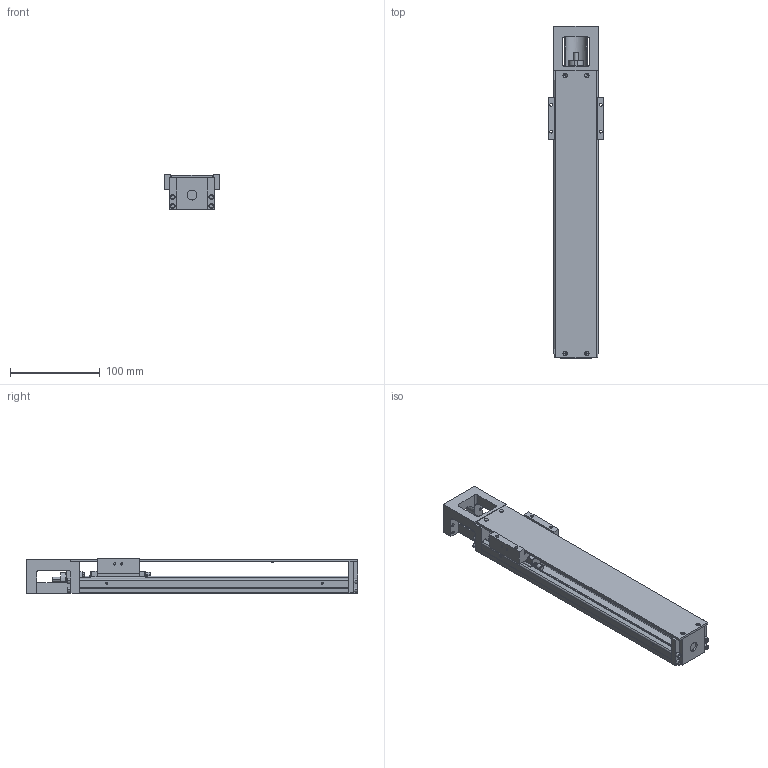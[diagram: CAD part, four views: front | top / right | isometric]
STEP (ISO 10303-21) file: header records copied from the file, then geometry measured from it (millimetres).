
FILE_DESCRIPTION(('no description'),'unknown implementation level');
FILE_NAME('KK5002P300A1F0C00_FILE_15.stp',' ',('HIWIN GmbH'),('CADClick - KiM GmbH - www.kimweb.de'),'unknown preprocess','ACIS','unknown authorization');
FILE_SCHEMA(('automotive_design'));
Length unit declared in the file: millimetre
Products named in the file (2): KK50_FILE; KK5002P300A1F0C00_FILE
Bounding box: 62 x 370 x 40 mm (x, y, z)
Volume: 331891.1 mm3; surface area: 128610.2 mm2
Topology: 2 solids, 14 shells, 840 faces, 2132 edges, 1349 vertices
Faces by surface type: plane 485, cylinder 247, cone 66, torus 42
Entity records: 49666 total; most frequent: CARTESIAN_POINT 4959, DIRECTION 4420, STYLED_ITEM 4289, PRESENTATION_STYLE_ASSIGNMENT 4289, COLOUR_RGB 4289, ORIENTED_EDGE 4196, EDGE_CURVE 2098, CURVE_STYLE 2098
